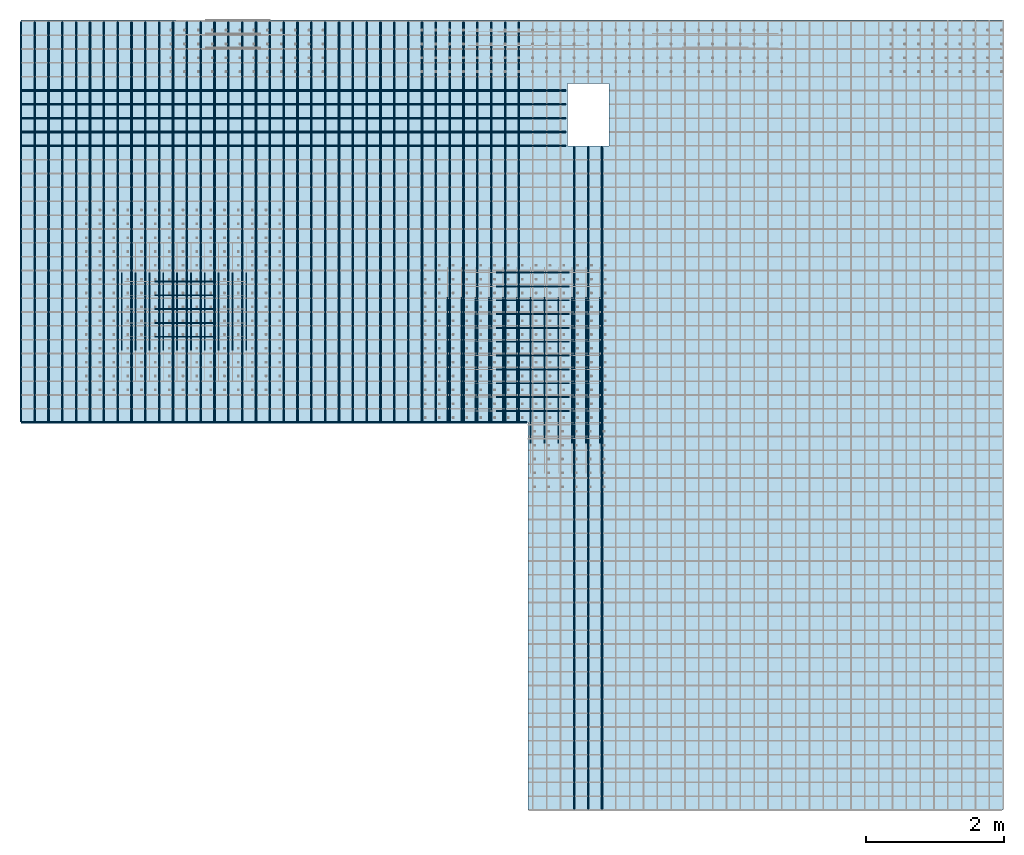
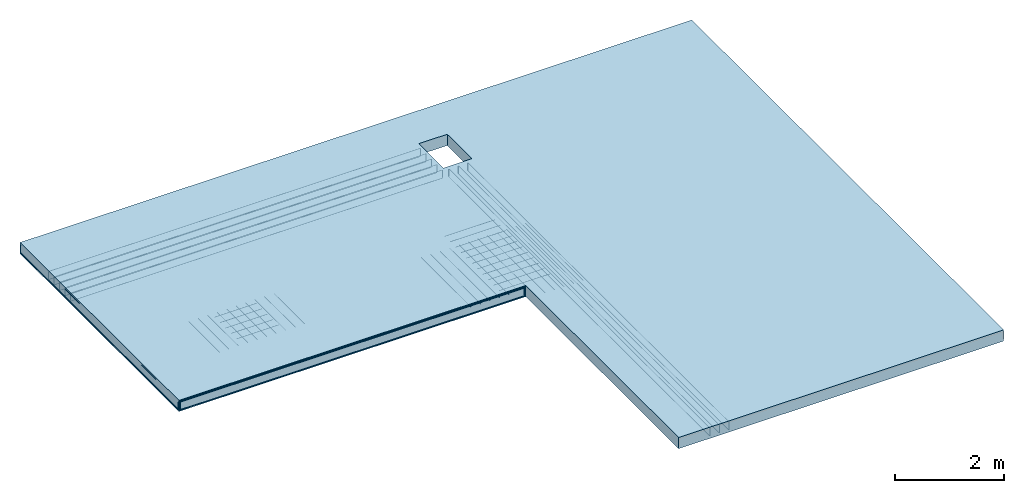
# One storey, part 1 of 4: 9 reinforcing bars, 1 slab, 1 opening.
"""IFC4 building model written with IfcOpenShell, lengths in metres."""

from ifc_helpers import new_model, entity, si_unit, frame, frame_2d, origin_with_axes, place, context, project, spatial, rectangle, extrude, faceted_brep, source, transform, mapped, material, layer, layer_set, layer_usage, type_object, element, save


model = new_model("IFC4")

# Units and contexts
model_context = context("Model", 3, precision=1e-05, world=origin_with_axes())
ifc_project = project(units=[si_unit("LENGTHUNIT", "METRE"), si_unit("AREAUNIT", "SQUARE_METRE"), si_unit("VOLUMEUNIT", "CUBIC_METRE"), si_unit("MASSUNIT", "GRAM", prefix="KILO"), si_unit("TIMEUNIT", "SECOND"), si_unit("PLANEANGLEUNIT", "RADIAN"), si_unit("SOLIDANGLEUNIT", "STERADIAN"), si_unit("THERMODYNAMICTEMPERATUREUNIT", "DEGREE_CELSIUS")], contexts=[model_context])

# Site, building, storey
placement_1 = place(None, origin_with_axes())
site = spatial("IfcSite", under=ifc_project, at=placement_1, Name="Italia", CompositionType="ELEMENT")
building = spatial("IfcBuilding", under=site, at=placement_1, Name="Abitazione", CompositionType="ELEMENT")
storey_placement = place(None, frame((0.0, 0.0, 6.730000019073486), z_axis=(0.0, 0.0, 1.0), x_axis=(1.0, 0.0, 0.0)))
storey = spatial("IfcBuildingStorey", under=building, at=storey_placement, Name="Storey 2", CompositionType="ELEMENT", Elevation=6.730000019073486)

# Slab, opening
ifc_material = material(Name="Calcestruzzo classe C25/30", Category="Calcestruzzo classe C25/30")
ifc_layer = layer(ifc_material, 0.25)
ifc_layer_set = layer_set([ifc_layer])
ifc_layer_usage = layer_usage(ifc_layer_set, "AXIS3", "POSITIVE", -0.25)
slab_type = type_object("IfcSlabType", Name="4 Soletta (C) 25", PredefinedType="BASESLAB")
placement_2 = place(placement_1, origin_with_axes())
slab_placement = place(placement_2, origin_with_axes())
slab = element("IfcSlab", 1, at=slab_placement, inside=storey, type_object=slab_type, material=ifc_layer_usage, context=model_context, shape_type="Brep", body=[
    faceted_brep([(0.8, 11.42, 6.73), (0.8, 11.42, 6.48), (15.0, 11.42, 6.48), (15.0, 11.42, 6.73), (15.0, 11.42, 6.73), (15.0, 11.42, 6.48), (15.0, 0.0, 6.48), (15.0, 0.0, 6.73), (15.0, 0.0, 6.73), (15.0, 0.0, 6.48), (8.13, 0.0, 6.48), (8.13, 0.0, 6.73), (8.13, 0.0, 6.73), (8.13, 0.0, 6.48), (8.13, 5.6, 6.48), (8.13, 5.6, 6.73), (8.13, 5.6, 6.73), (8.13, 5.6, 6.48), (0.8, 5.6, 6.48), (0.8, 5.6, 6.73), (0.8, 5.6, 6.73), (0.8, 5.6, 6.48), (0.8, 11.42, 6.48), (0.8, 11.42, 6.73), (0.8, 11.42, 6.48), (15.0, 11.42, 6.48), (15.0, 0.0, 6.48), (8.13, 0.0, 6.48), (8.13, 5.6, 6.48), (0.8, 5.6, 6.48), (0.8, 11.42, 6.73), (15.0, 11.42, 6.73), (15.0, 0.0, 6.73), (8.13, 0.0, 6.73), (8.13, 5.6, 6.73), (0.8, 5.6, 6.73)], [[[0, 1, 2, 3]], [[4, 5, 6, 7]], [[8, 9, 10, 11]], [[12, 13, 14, 15]], [[16, 17, 18, 19]], [[20, 21, 22, 23]], [[24, 25, 26, 27, 28, 29]], [[30, 31, 32, 33, 34, 35]]]),
])
placement_3 = place(None, frame((0.800000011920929, 11.420000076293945, 6.730000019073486), z_axis=(0.0, -1.0, 0.0), x_axis=(1.0, 0.0, 0.0)))
opening_placement = place(placement_3, frame((7.899999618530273, -0.25, 0.920000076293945), z_axis=(0.0, 0.0, 1.0), x_axis=(0.0, 1.0, 0.0)))
element("IfcOpeningElement", 2, at=opening_placement, cuts=slab, Name="Opening 1", ObjectType="Opening", context=model_context, shape_type="SweptSolid", body=[
    extrude(rectangle(XDim=0.9, YDim=0.6, at=frame_2d((0.45, 0.3), x_axis=(1.0, 0.0))), frame((0.0, 0.0, 0.0), z_axis=(1.0, 0.0, 0.0), x_axis=(0.0, 0.0, 1.0)), (0.0, 0.0, 1.0), 0.25),
])

# Reinforcing bars
shared_shape_1 = source(origin_with_axes(), model_context, "Body", "AdvancedSweptSolid", [
    entity("IfcSweptDiskSolid", entity("IfcIndexedPolyCurve", entity("IfcCartesianPointList3D", [[0.812, 5.594, 6.534], [0.812, 5.594, 6.69], [0.812761, 5.594, 6.69383], [0.814929, 5.594, 6.69707], [0.818173, 5.594, 6.69924], [0.822, 5.594, 6.7], [8.096, 5.594, 6.7], [8.09983, 5.594, 6.69924], [8.10307, 5.594, 6.69707], [8.10524, 5.594, 6.69383], [8.106, 5.594, 6.69], [8.106, 5.594, 6.534]]), [entity("IfcLineIndex", [1, 2]), entity("IfcLineIndex", [2, 3]), entity("IfcLineIndex", [3, 4]), entity("IfcLineIndex", [4, 5]), entity("IfcLineIndex", [5, 6]), entity("IfcLineIndex", [6, 7]), entity("IfcLineIndex", [7, 8]), entity("IfcLineIndex", [8, 9]), entity("IfcLineIndex", [9, 10]), entity("IfcLineIndex", [10, 11]), entity("IfcLineIndex", [11, 12])], False), 0.006),
])
reinforcing_bar_1_placement = place(placement_2, origin_with_axes())
element("IfcReinforcingBar", 3, at=reinforcing_bar_1_placement, inside=storey, BarLength=7.61721, CrossSectionArea=0.0001131, NominalDiameter=0.012, context=model_context, shape_type="MappedRepresentation", body=[
    mapped(shared_shape_1, transform((0.0, 11.2, 13.21), x_axis=(1.0, 0.0, 0.0), y_axis=(0.0, -1.0, 0.0), z_axis=(0.0, 0.0, -1.0), scale=1.0)),
    mapped(shared_shape_1, transform((0.0, 0.0, 0.0), x_axis=(1.0, 0.0, 0.0), y_axis=(0.0, 1.0, 0.0), z_axis=(0.0, 0.0, 1.0), scale=1.0)),
])
shared_shape_2 = source(origin_with_axes(), model_context, "Body", "AdvancedSweptSolid", [
    entity("IfcSweptDiskSolid", entity("IfcIndexedPolyCurve", entity("IfcCartesianPointList3D", [[0.812, 9.594, 6.534], [0.812, 9.594, 6.69], [0.812761, 9.594, 6.69383], [0.814929, 9.594, 6.69707], [0.818173, 9.594, 6.69924], [0.822, 9.594, 6.7], [8.666, 9.594, 6.7], [8.66983, 9.594, 6.69924], [8.67307, 9.594, 6.69707], [8.67524, 9.594, 6.69383], [8.676, 9.594, 6.69], [8.676, 9.594, 6.534]]), [entity("IfcLineIndex", [1, 2]), entity("IfcLineIndex", [2, 3]), entity("IfcLineIndex", [3, 4]), entity("IfcLineIndex", [4, 5]), entity("IfcLineIndex", [5, 6]), entity("IfcLineIndex", [6, 7]), entity("IfcLineIndex", [7, 8]), entity("IfcLineIndex", [8, 9]), entity("IfcLineIndex", [9, 10]), entity("IfcLineIndex", [10, 11]), entity("IfcLineIndex", [11, 12])], False), 0.006),
])
reinforcing_bar_2_placement = place(placement_2, origin_with_axes())
element("IfcReinforcingBar", 4, at=reinforcing_bar_2_placement, inside=storey, BarLength=8.18721, CrossSectionArea=0.0001131, NominalDiameter=0.012, context=model_context, shape_type="MappedRepresentation", body=[
    mapped(shared_shape_2, transform((0.0, 19.4, 13.21), x_axis=(1.0, 0.0, 0.0), y_axis=(0.0, -1.0, 0.0), z_axis=(0.0, 0.0, -1.0), scale=1.0)),
    mapped(shared_shape_2, transform((0.0, 19.2, 13.21), x_axis=(1.0, 0.0, 0.0), y_axis=(0.0, -1.0, 0.0), z_axis=(0.0, 0.0, -1.0), scale=1.0)),
    mapped(shared_shape_2, transform((0.0, 19.8, 13.21), x_axis=(1.0, 0.0, 0.0), y_axis=(0.0, -1.0, 0.0), z_axis=(0.0, 0.0, -1.0), scale=1.0)),
    mapped(shared_shape_2, transform((0.0, 19.6, 13.21), x_axis=(1.0, 0.0, 0.0), y_axis=(0.0, -1.0, 0.0), z_axis=(0.0, 0.0, -1.0), scale=1.0)),
    mapped(shared_shape_2, transform((0.0, 0.0, 0.0), x_axis=(1.0, 0.0, 0.0), y_axis=(0.0, 1.0, 0.0), z_axis=(0.0, 0.0, 1.0), scale=1.0)),
    mapped(shared_shape_2, transform((0.0, 20.0, 13.21), x_axis=(1.0, 0.0, 0.0), y_axis=(0.0, -1.0, 0.0), z_axis=(0.0, 0.0, -1.0), scale=1.0)),
    mapped(shared_shape_2, transform((0.0, 0.4, 0.0), x_axis=(1.0, 0.0, 0.0), y_axis=(0.0, 1.0, 0.0), z_axis=(0.0, 0.0, 1.0), scale=1.0)),
    mapped(shared_shape_2, transform((0.0, 0.2, 0.0), x_axis=(1.0, 0.0, 0.0), y_axis=(0.0, 1.0, 0.0), z_axis=(0.0, 0.0, 1.0), scale=1.0)),
    mapped(shared_shape_2, transform((0.0, 0.799999, 0.0), x_axis=(1.0, 0.0, 0.0), y_axis=(0.0, 1.0, 0.0), z_axis=(0.0, 0.0, 1.0), scale=1.0)),
    mapped(shared_shape_2, transform((0.0, 0.599999, 0.0), x_axis=(1.0, 0.0, 0.0), y_axis=(0.0, 1.0, 0.0), z_axis=(0.0, 0.0, 1.0), scale=1.0)),
])
shared_shape_3 = source(origin_with_axes(), model_context, "Body", "AdvancedSweptSolid", [
    entity("IfcSweptDiskSolid", entity("IfcIndexedPolyCurve", entity("IfcCartesianPointList3D", [[0.806, 5.612, 6.522], [0.806, 5.612, 6.678], [0.806, 5.61276, 6.68183], [0.806, 5.61493, 6.68507], [0.806, 5.61817, 6.68724], [0.806, 5.622, 6.688], [0.806, 11.386, 6.688], [0.806, 11.3898, 6.68724], [0.806, 11.3931, 6.68507], [0.806, 11.3952, 6.68183], [0.806, 11.396, 6.678], [0.806, 11.396, 6.522]]), [entity("IfcLineIndex", [1, 2]), entity("IfcLineIndex", [2, 3]), entity("IfcLineIndex", [3, 4]), entity("IfcLineIndex", [4, 5]), entity("IfcLineIndex", [5, 6]), entity("IfcLineIndex", [6, 7]), entity("IfcLineIndex", [7, 8]), entity("IfcLineIndex", [8, 9]), entity("IfcLineIndex", [9, 10]), entity("IfcLineIndex", [10, 11]), entity("IfcLineIndex", [11, 12])], False), 0.006),
])
reinforcing_bar_3_placement = place(placement_2, origin_with_axes())
element("IfcReinforcingBar", 5, at=reinforcing_bar_3_placement, inside=storey, BarLength=6.10721, CrossSectionArea=0.0001131, NominalDiameter=0.012, context=model_context, shape_type="MappedRepresentation", body=[
    mapped(shared_shape_3, transform((7.2, 0.0, 0.0), x_axis=(1.0, 0.0, 0.0), y_axis=(0.0, 1.0, 0.0), z_axis=(0.0, 0.0, 1.0), scale=1.0)),
    mapped(shared_shape_3, transform((7.0, 0.0, 0.0), x_axis=(1.0, 0.0, 0.0), y_axis=(0.0, 1.0, 0.0), z_axis=(0.0, 0.0, 1.0), scale=1.0)),
    mapped(shared_shape_3, transform((5.0, 0.0, 0.0), x_axis=(1.0, 0.0, 0.0), y_axis=(0.0, 1.0, 0.0), z_axis=(0.0, 0.0, 1.0), scale=1.0)),
    mapped(shared_shape_3, transform((4.8, 0.0, 0.0), x_axis=(1.0, 0.0, 0.0), y_axis=(0.0, 1.0, 0.0), z_axis=(0.0, 0.0, 1.0), scale=1.0)),
    mapped(shared_shape_3, transform((4.6, 0.0, 0.0), x_axis=(1.0, 0.0, 0.0), y_axis=(0.0, 1.0, 0.0), z_axis=(0.0, 0.0, 1.0), scale=1.0)),
    mapped(shared_shape_3, transform((4.4, 0.0, 0.0), x_axis=(1.0, 0.0, 0.0), y_axis=(0.0, 1.0, 0.0), z_axis=(0.0, 0.0, 1.0), scale=1.0)),
    mapped(shared_shape_3, transform((4.2, 0.0, 0.0), x_axis=(1.0, 0.0, 0.0), y_axis=(0.0, 1.0, 0.0), z_axis=(0.0, 0.0, 1.0), scale=1.0)),
    mapped(shared_shape_3, transform((4.0, 0.0, 0.0), x_axis=(1.0, 0.0, 0.0), y_axis=(0.0, 1.0, 0.0), z_axis=(0.0, 0.0, 1.0), scale=1.0)),
    mapped(shared_shape_3, transform((3.8, 0.0, 0.0), x_axis=(1.0, 0.0, 0.0), y_axis=(0.0, 1.0, 0.0), z_axis=(0.0, 0.0, 1.0), scale=1.0)),
    mapped(shared_shape_3, transform((5.4, 0.0, 0.0), x_axis=(1.0, 0.0, 0.0), y_axis=(0.0, 1.0, 0.0), z_axis=(0.0, 0.0, 1.0), scale=1.0)),
    mapped(shared_shape_3, transform((5.2, 0.0, 0.0), x_axis=(1.0, 0.0, 0.0), y_axis=(0.0, 1.0, 0.0), z_axis=(0.0, 0.0, 1.0), scale=1.0)),
    mapped(shared_shape_3, transform((6.8, 0.0, 0.0), x_axis=(1.0, 0.0, 0.0), y_axis=(0.0, 1.0, 0.0), z_axis=(0.0, 0.0, 1.0), scale=1.0)),
    mapped(shared_shape_3, transform((6.6, 0.0, 0.0), x_axis=(1.0, 0.0, 0.0), y_axis=(0.0, 1.0, 0.0), z_axis=(0.0, 0.0, 1.0), scale=1.0)),
    mapped(shared_shape_3, transform((6.4, 0.0, 0.0), x_axis=(1.0, 0.0, 0.0), y_axis=(0.0, 1.0, 0.0), z_axis=(0.0, 0.0, 1.0), scale=1.0)),
    mapped(shared_shape_3, transform((6.2, 0.0, 0.0), x_axis=(1.0, 0.0, 0.0), y_axis=(0.0, 1.0, 0.0), z_axis=(0.0, 0.0, 1.0), scale=1.0)),
    mapped(shared_shape_3, transform((6.0, 0.0, 0.0), x_axis=(1.0, 0.0, 0.0), y_axis=(0.0, 1.0, 0.0), z_axis=(0.0, 0.0, 1.0), scale=1.0)),
    mapped(shared_shape_3, transform((5.8, 0.0, 0.0), x_axis=(1.0, 0.0, 0.0), y_axis=(0.0, 1.0, 0.0), z_axis=(0.0, 0.0, 1.0), scale=1.0)),
    mapped(shared_shape_3, transform((5.6, 0.0, 0.0), x_axis=(1.0, 0.0, 0.0), y_axis=(0.0, 1.0, 0.0), z_axis=(0.0, 0.0, 1.0), scale=1.0)),
    mapped(shared_shape_3, transform((3.6, 0.0, 0.0), x_axis=(1.0, 0.0, 0.0), y_axis=(0.0, 1.0, 0.0), z_axis=(0.0, 0.0, 1.0), scale=1.0)),
    mapped(shared_shape_3, transform((3.4, 0.0, 0.0), x_axis=(1.0, 0.0, 0.0), y_axis=(0.0, 1.0, 0.0), z_axis=(0.0, 0.0, 1.0), scale=1.0)),
    mapped(shared_shape_3, transform((1.4, 0.0, 0.0), x_axis=(1.0, 0.0, 0.0), y_axis=(0.0, 1.0, 0.0), z_axis=(0.0, 0.0, 1.0), scale=1.0)),
    mapped(shared_shape_3, transform((1.2, 0.0, 0.0), x_axis=(1.0, 0.0, 0.0), y_axis=(0.0, 1.0, 0.0), z_axis=(0.0, 0.0, 1.0), scale=1.0)),
    mapped(shared_shape_3, transform((1.0, 0.0, 0.0), x_axis=(1.0, 0.0, 0.0), y_axis=(0.0, 1.0, 0.0), z_axis=(0.0, 0.0, 1.0), scale=1.0)),
    mapped(shared_shape_3, transform((0.8, 0.0, 0.0), x_axis=(1.0, 0.0, 0.0), y_axis=(0.0, 1.0, 0.0), z_axis=(0.0, 0.0, 1.0), scale=1.0)),
    mapped(shared_shape_3, transform((0.6, 0.0, 0.0), x_axis=(1.0, 0.0, 0.0), y_axis=(0.0, 1.0, 0.0), z_axis=(0.0, 0.0, 1.0), scale=1.0)),
    mapped(shared_shape_3, transform((0.4, 0.0, 0.0), x_axis=(1.0, 0.0, 0.0), y_axis=(0.0, 1.0, 0.0), z_axis=(0.0, 0.0, 1.0), scale=1.0)),
    mapped(shared_shape_3, transform((0.2, 0.0, 0.0), x_axis=(1.0, 0.0, 0.0), y_axis=(0.0, 1.0, 0.0), z_axis=(0.0, 0.0, 1.0), scale=1.0)),
    mapped(shared_shape_3, transform((1.8, 0.0, 0.0), x_axis=(1.0, 0.0, 0.0), y_axis=(0.0, 1.0, 0.0), z_axis=(0.0, 0.0, 1.0), scale=1.0)),
    mapped(shared_shape_3, transform((1.6, 0.0, 0.0), x_axis=(1.0, 0.0, 0.0), y_axis=(0.0, 1.0, 0.0), z_axis=(0.0, 0.0, 1.0), scale=1.0)),
    mapped(shared_shape_3, transform((3.2, 0.0, 0.0), x_axis=(1.0, 0.0, 0.0), y_axis=(0.0, 1.0, 0.0), z_axis=(0.0, 0.0, 1.0), scale=1.0)),
    mapped(shared_shape_3, transform((3.0, 0.0, 0.0), x_axis=(1.0, 0.0, 0.0), y_axis=(0.0, 1.0, 0.0), z_axis=(0.0, 0.0, 1.0), scale=1.0)),
    mapped(shared_shape_3, transform((2.8, 0.0, 0.0), x_axis=(1.0, 0.0, 0.0), y_axis=(0.0, 1.0, 0.0), z_axis=(0.0, 0.0, 1.0), scale=1.0)),
    mapped(shared_shape_3, transform((2.6, 0.0, 0.0), x_axis=(1.0, 0.0, 0.0), y_axis=(0.0, 1.0, 0.0), z_axis=(0.0, 0.0, 1.0), scale=1.0)),
    mapped(shared_shape_3, transform((2.4, 0.0, 0.0), x_axis=(1.0, 0.0, 0.0), y_axis=(0.0, 1.0, 0.0), z_axis=(0.0, 0.0, 1.0), scale=1.0)),
    mapped(shared_shape_3, transform((2.2, 0.0, 0.0), x_axis=(1.0, 0.0, 0.0), y_axis=(0.0, 1.0, 0.0), z_axis=(0.0, 0.0, 1.0), scale=1.0)),
    mapped(shared_shape_3, transform((2.0, 0.0, 0.0), x_axis=(1.0, 0.0, 0.0), y_axis=(0.0, 1.0, 0.0), z_axis=(0.0, 0.0, 1.0), scale=1.0)),
    mapped(shared_shape_3, transform((0.0, 0.0, 0.0), x_axis=(1.0, 0.0, 0.0), y_axis=(0.0, 1.0, 0.0), z_axis=(0.0, 0.0, 1.0), scale=1.0)),
    mapped(shared_shape_3, transform((8.8, 0.0, 13.21), x_axis=(-1.0, 0.0, 0.0), y_axis=(0.0, 1.0, 0.0), z_axis=(0.0, 0.0, -1.0), scale=1.0)),
    mapped(shared_shape_3, transform((6.8, 0.0, 13.21), x_axis=(-1.0, 0.0, 0.0), y_axis=(0.0, 1.0, 0.0), z_axis=(0.0, 0.0, -1.0), scale=1.0)),
    mapped(shared_shape_3, transform((6.6, 0.0, 13.21), x_axis=(-1.0, 0.0, 0.0), y_axis=(0.0, 1.0, 0.0), z_axis=(0.0, 0.0, -1.0), scale=1.0)),
    mapped(shared_shape_3, transform((6.4, 0.0, 13.21), x_axis=(-1.0, 0.0, 0.0), y_axis=(0.0, 1.0, 0.0), z_axis=(0.0, 0.0, -1.0), scale=1.0)),
    mapped(shared_shape_3, transform((6.2, 0.0, 13.21), x_axis=(-1.0, 0.0, 0.0), y_axis=(0.0, 1.0, 0.0), z_axis=(0.0, 0.0, -1.0), scale=1.0)),
    mapped(shared_shape_3, transform((6.0, 0.0, 13.21), x_axis=(-1.0, 0.0, 0.0), y_axis=(0.0, 1.0, 0.0), z_axis=(0.0, 0.0, -1.0), scale=1.0)),
    mapped(shared_shape_3, transform((5.8, 0.0, 13.21), x_axis=(-1.0, 0.0, 0.0), y_axis=(0.0, 1.0, 0.0), z_axis=(0.0, 0.0, -1.0), scale=1.0)),
    mapped(shared_shape_3, transform((5.6, 0.0, 13.21), x_axis=(-1.0, 0.0, 0.0), y_axis=(0.0, 1.0, 0.0), z_axis=(0.0, 0.0, -1.0), scale=1.0)),
    mapped(shared_shape_3, transform((7.2, 0.0, 13.21), x_axis=(-1.0, 0.0, 0.0), y_axis=(0.0, 1.0, 0.0), z_axis=(0.0, 0.0, -1.0), scale=1.0)),
    mapped(shared_shape_3, transform((7.0, 0.0, 13.21), x_axis=(-1.0, 0.0, 0.0), y_axis=(0.0, 1.0, 0.0), z_axis=(0.0, 0.0, -1.0), scale=1.0)),
    mapped(shared_shape_3, transform((8.6, 0.0, 13.21), x_axis=(-1.0, 0.0, 0.0), y_axis=(0.0, 1.0, 0.0), z_axis=(0.0, 0.0, -1.0), scale=1.0)),
    mapped(shared_shape_3, transform((8.4, 0.0, 13.21), x_axis=(-1.0, 0.0, 0.0), y_axis=(0.0, 1.0, 0.0), z_axis=(0.0, 0.0, -1.0), scale=1.0)),
    mapped(shared_shape_3, transform((8.2, 0.0, 13.21), x_axis=(-1.0, 0.0, 0.0), y_axis=(0.0, 1.0, 0.0), z_axis=(0.0, 0.0, -1.0), scale=1.0)),
    mapped(shared_shape_3, transform((8.0, 0.0, 13.21), x_axis=(-1.0, 0.0, 0.0), y_axis=(0.0, 1.0, 0.0), z_axis=(0.0, 0.0, -1.0), scale=1.0)),
    mapped(shared_shape_3, transform((7.8, 0.0, 13.21), x_axis=(-1.0, 0.0, 0.0), y_axis=(0.0, 1.0, 0.0), z_axis=(0.0, 0.0, -1.0), scale=1.0)),
    mapped(shared_shape_3, transform((7.6, 0.0, 13.21), x_axis=(-1.0, 0.0, 0.0), y_axis=(0.0, 1.0, 0.0), z_axis=(0.0, 0.0, -1.0), scale=1.0)),
    mapped(shared_shape_3, transform((7.4, 0.0, 13.21), x_axis=(-1.0, 0.0, 0.0), y_axis=(0.0, 1.0, 0.0), z_axis=(0.0, 0.0, -1.0), scale=1.0)),
    mapped(shared_shape_3, transform((5.4, 0.0, 13.21), x_axis=(-1.0, 0.0, 0.0), y_axis=(0.0, 1.0, 0.0), z_axis=(0.0, 0.0, -1.0), scale=1.0)),
    mapped(shared_shape_3, transform((5.2, 0.0, 13.21), x_axis=(-1.0, 0.0, 0.0), y_axis=(0.0, 1.0, 0.0), z_axis=(0.0, 0.0, -1.0), scale=1.0)),
    mapped(shared_shape_3, transform((3.2, 0.0, 13.21), x_axis=(-1.0, 0.0, 0.0), y_axis=(0.0, 1.0, 0.0), z_axis=(0.0, 0.0, -1.0), scale=1.0)),
    mapped(shared_shape_3, transform((3.0, 0.0, 13.21), x_axis=(-1.0, 0.0, 0.0), y_axis=(0.0, 1.0, 0.0), z_axis=(0.0, 0.0, -1.0), scale=1.0)),
    mapped(shared_shape_3, transform((2.8, 0.0, 13.21), x_axis=(-1.0, 0.0, 0.0), y_axis=(0.0, 1.0, 0.0), z_axis=(0.0, 0.0, -1.0), scale=1.0)),
    mapped(shared_shape_3, transform((2.6, 0.0, 13.21), x_axis=(-1.0, 0.0, 0.0), y_axis=(0.0, 1.0, 0.0), z_axis=(0.0, 0.0, -1.0), scale=1.0)),
    mapped(shared_shape_3, transform((2.4, 0.0, 13.21), x_axis=(-1.0, 0.0, 0.0), y_axis=(0.0, 1.0, 0.0), z_axis=(0.0, 0.0, -1.0), scale=1.0)),
    mapped(shared_shape_3, transform((2.2, 0.0, 13.21), x_axis=(-1.0, 0.0, 0.0), y_axis=(0.0, 1.0, 0.0), z_axis=(0.0, 0.0, -1.0), scale=1.0)),
    mapped(shared_shape_3, transform((2.0, 0.0, 13.21), x_axis=(-1.0, 0.0, 0.0), y_axis=(0.0, 1.0, 0.0), z_axis=(0.0, 0.0, -1.0), scale=1.0)),
    mapped(shared_shape_3, transform((3.6, 0.0, 13.21), x_axis=(-1.0, 0.0, 0.0), y_axis=(0.0, 1.0, 0.0), z_axis=(0.0, 0.0, -1.0), scale=1.0)),
    mapped(shared_shape_3, transform((3.4, 0.0, 13.21), x_axis=(-1.0, 0.0, 0.0), y_axis=(0.0, 1.0, 0.0), z_axis=(0.0, 0.0, -1.0), scale=1.0)),
    mapped(shared_shape_3, transform((5.0, 0.0, 13.21), x_axis=(-1.0, 0.0, 0.0), y_axis=(0.0, 1.0, 0.0), z_axis=(0.0, 0.0, -1.0), scale=1.0)),
    mapped(shared_shape_3, transform((4.8, 0.0, 13.21), x_axis=(-1.0, 0.0, 0.0), y_axis=(0.0, 1.0, 0.0), z_axis=(0.0, 0.0, -1.0), scale=1.0)),
    mapped(shared_shape_3, transform((4.6, 0.0, 13.21), x_axis=(-1.0, 0.0, 0.0), y_axis=(0.0, 1.0, 0.0), z_axis=(0.0, 0.0, -1.0), scale=1.0)),
    mapped(shared_shape_3, transform((4.4, 0.0, 13.21), x_axis=(-1.0, 0.0, 0.0), y_axis=(0.0, 1.0, 0.0), z_axis=(0.0, 0.0, -1.0), scale=1.0)),
    mapped(shared_shape_3, transform((4.2, 0.0, 13.21), x_axis=(-1.0, 0.0, 0.0), y_axis=(0.0, 1.0, 0.0), z_axis=(0.0, 0.0, -1.0), scale=1.0)),
    mapped(shared_shape_3, transform((4.0, 0.0, 13.21), x_axis=(-1.0, 0.0, 0.0), y_axis=(0.0, 1.0, 0.0), z_axis=(0.0, 0.0, -1.0), scale=1.0)),
    mapped(shared_shape_3, transform((3.8, 0.0, 13.21), x_axis=(-1.0, 0.0, 0.0), y_axis=(0.0, 1.0, 0.0), z_axis=(0.0, 0.0, -1.0), scale=1.0)),
    mapped(shared_shape_3, transform((1.8, 0.0, 13.21), x_axis=(-1.0, 0.0, 0.0), y_axis=(0.0, 1.0, 0.0), z_axis=(0.0, 0.0, -1.0), scale=1.0)),
    mapped(shared_shape_3, transform((1.6, 0.0, 13.21), x_axis=(-1.0, 0.0, 0.0), y_axis=(0.0, 1.0, 0.0), z_axis=(0.0, 0.0, -1.0), scale=1.0)),
])
shared_shape_4 = source(origin_with_axes(), model_context, "Body", "AdvancedSweptSolid", [
    entity("IfcSweptDiskSolid", entity("IfcIndexedPolyCurve", entity("IfcCartesianPointList3D", [[8.80599, 0.012, 6.522], [8.80599, 0.012, 6.678], [8.80599, 0.0127612, 6.68183], [8.80599, 0.0149289, 6.68507], [8.80599, 0.0181732, 6.68724], [8.80599, 0.022, 6.688], [8.80599, 9.566, 6.688], [8.80599, 9.56983, 6.68724], [8.80599, 9.57307, 6.68507], [8.80599, 9.57524, 6.68183], [8.80599, 9.576, 6.678], [8.80599, 9.576, 6.522]]), [entity("IfcLineIndex", [1, 2]), entity("IfcLineIndex", [2, 3]), entity("IfcLineIndex", [3, 4]), entity("IfcLineIndex", [4, 5]), entity("IfcLineIndex", [5, 6]), entity("IfcLineIndex", [6, 7]), entity("IfcLineIndex", [7, 8]), entity("IfcLineIndex", [8, 9]), entity("IfcLineIndex", [9, 10]), entity("IfcLineIndex", [10, 11]), entity("IfcLineIndex", [11, 12])], False), 0.006),
])
reinforcing_bar_4_placement = place(placement_2, origin_with_axes())
element("IfcReinforcingBar", 6, at=reinforcing_bar_4_placement, inside=storey, BarLength=9.88721, CrossSectionArea=0.0001131, NominalDiameter=0.012, context=model_context, shape_type="MappedRepresentation", body=[
    mapped(shared_shape_4, transform((0.4, 0.0, 0.0), x_axis=(1.0, 0.0, 0.0), y_axis=(0.0, 1.0, 0.0), z_axis=(0.0, 0.0, 1.0), scale=1.0)),
    mapped(shared_shape_4, transform((0.2, 0.0, 0.0), x_axis=(1.0, 0.0, 0.0), y_axis=(0.0, 1.0, 0.0), z_axis=(0.0, 0.0, 1.0), scale=1.0)),
    mapped(shared_shape_4, transform((0.0, 0.0, 0.0), x_axis=(1.0, 0.0, 0.0), y_axis=(0.0, 1.0, 0.0), z_axis=(0.0, 0.0, 1.0), scale=1.0)),
    mapped(shared_shape_4, transform((18.0, 0.0, 13.21), x_axis=(-1.0, 0.0, 0.0), y_axis=(0.0, 1.0, 0.0), z_axis=(0.0, 0.0, -1.0), scale=1.0)),
    mapped(shared_shape_4, transform((17.8, 0.0, 13.21), x_axis=(-1.0, 0.0, 0.0), y_axis=(0.0, 1.0, 0.0), z_axis=(0.0, 0.0, -1.0), scale=1.0)),
    mapped(shared_shape_4, transform((17.6, 0.0, 13.21), x_axis=(-1.0, 0.0, 0.0), y_axis=(0.0, 1.0, 0.0), z_axis=(0.0, 0.0, -1.0), scale=1.0)),
])
shared_shape_5 = source(origin_with_axes(), model_context, "Body", "AdvancedSweptSolid", [
    entity("IfcSweptDiskSolid", entity("IfcIndexedPolyCurve", entity("IfcCartesianPointList3D", [[7.66749, 5.76872, 6.676], [8.7334, 5.76872, 6.676]]), [entity("IfcLineIndex", [1, 2])], False), 0.006),
])
reinforcing_bar_5_placement = place(placement_2, origin_with_axes())
element("IfcReinforcingBar", 7, at=reinforcing_bar_5_placement, inside=storey, BarLength=1.06591, CrossSectionArea=0.0001131, NominalDiameter=0.012, context=model_context, shape_type="MappedRepresentation", body=[
    mapped(shared_shape_5, transform((0.0, 2.0, 0.0), x_axis=(1.0, 0.0, 0.0), y_axis=(0.0, 1.0, 0.0), z_axis=(0.0, 0.0, 1.0), scale=1.0)),
    mapped(shared_shape_5, transform((0.0, 1.2, 0.0), x_axis=(1.0, 0.0, 0.0), y_axis=(0.0, 1.0, 0.0), z_axis=(0.0, 0.0, 1.0), scale=1.0)),
    mapped(shared_shape_5, transform((0.0, 1.4, 0.0), x_axis=(1.0, 0.0, 0.0), y_axis=(0.0, 1.0, 0.0), z_axis=(0.0, 0.0, 1.0), scale=1.0)),
    mapped(shared_shape_5, transform((0.0, 1.6, 0.0), x_axis=(1.0, 0.0, 0.0), y_axis=(0.0, 1.0, 0.0), z_axis=(0.0, 0.0, 1.0), scale=1.0)),
    mapped(shared_shape_5, transform((0.0, 1.8, 0.0), x_axis=(1.0, 0.0, 0.0), y_axis=(0.0, 1.0, 0.0), z_axis=(0.0, 0.0, 1.0), scale=1.0)),
    mapped(shared_shape_5, transform((0.0, 0.999999, 0.0), x_axis=(1.0, 0.0, 0.0), y_axis=(0.0, 1.0, 0.0), z_axis=(0.0, 0.0, 1.0), scale=1.0)),
    mapped(shared_shape_5, transform((0.0, 0.2, 0.0), x_axis=(1.0, 0.0, 0.0), y_axis=(0.0, 1.0, 0.0), z_axis=(0.0, 0.0, 1.0), scale=1.0)),
    mapped(shared_shape_5, transform((0.0, 0.4, 0.0), x_axis=(1.0, 0.0, 0.0), y_axis=(0.0, 1.0, 0.0), z_axis=(0.0, 0.0, 1.0), scale=1.0)),
    mapped(shared_shape_5, transform((0.0, 0.599999, 0.0), x_axis=(1.0, 0.0, 0.0), y_axis=(0.0, 1.0, 0.0), z_axis=(0.0, 0.0, 1.0), scale=1.0)),
    mapped(shared_shape_5, transform((0.0, 0.799999, 0.0), x_axis=(1.0, 0.0, 0.0), y_axis=(0.0, 1.0, 0.0), z_axis=(0.0, 0.0, 1.0), scale=1.0)),
    mapped(shared_shape_5, transform((0.0, 0.0, 0.0), x_axis=(1.0, 0.0, 0.0), y_axis=(0.0, 1.0, 0.0), z_axis=(0.0, 0.0, 1.0), scale=1.0)),
])
shared_shape_6 = source(origin_with_axes(), model_context, "Body", "AdvancedSweptSolid", [
    entity("IfcSweptDiskSolid", entity("IfcIndexedPolyCurve", entity("IfcCartesianPointList3D", [[2.73246, 6.84009, 6.676], [3.61837, 6.84009, 6.676]]), [entity("IfcLineIndex", [1, 2])], False), 0.006),
])
reinforcing_bar_6_placement = place(placement_2, origin_with_axes())
element("IfcReinforcingBar", 8, at=reinforcing_bar_6_placement, inside=storey, BarLength=0.885909, CrossSectionArea=0.0001131, NominalDiameter=0.012, context=model_context, shape_type="MappedRepresentation", body=[
    mapped(shared_shape_6, transform((0.0, 0.0, 0.0), x_axis=(1.0, 0.0, 0.0), y_axis=(0.0, 1.0, 0.0), z_axis=(0.0, 0.0, 1.0), scale=1.0)),
    mapped(shared_shape_6, transform((0.0, 0.199999, 0.0), x_axis=(1.0, 0.0, 0.0), y_axis=(0.0, 1.0, 0.0), z_axis=(0.0, 0.0, 1.0), scale=1.0)),
    mapped(shared_shape_6, transform((0.0, 0.399999, 0.0), x_axis=(1.0, 0.0, 0.0), y_axis=(0.0, 1.0, 0.0), z_axis=(0.0, 0.0, 1.0), scale=1.0)),
    mapped(shared_shape_6, transform((0.0, 0.599999, 0.0), x_axis=(1.0, 0.0, 0.0), y_axis=(0.0, 1.0, 0.0), z_axis=(0.0, 0.0, 1.0), scale=1.0)),
    mapped(shared_shape_6, transform((0.0, 0.799999, 0.0), x_axis=(1.0, 0.0, 0.0), y_axis=(0.0, 1.0, 0.0), z_axis=(0.0, 0.0, 1.0), scale=1.0)),
])
shared_shape_7 = source(origin_with_axes(), model_context, "Body", "AdvancedSweptSolid", [
    entity("IfcSweptDiskSolid", entity("IfcIndexedPolyCurve", entity("IfcCartesianPointList3D", [[2.25968, 6.64288, 6.664], [2.25968, 7.76879, 6.664]]), [entity("IfcLineIndex", [1, 2])], False), 0.006),
])
reinforcing_bar_7_placement = place(placement_2, origin_with_axes())
element("IfcReinforcingBar", 9, at=reinforcing_bar_7_placement, inside=storey, BarLength=1.12591, CrossSectionArea=0.0001131, NominalDiameter=0.012, context=model_context, shape_type="MappedRepresentation", body=[
    mapped(shared_shape_7, transform((1.2, 0.0, 0.0), x_axis=(1.0, 0.0, 0.0), y_axis=(0.0, 1.0, 0.0), z_axis=(0.0, 0.0, 1.0), scale=1.0)),
    mapped(shared_shape_7, transform((1.0, 0.0, 0.0), x_axis=(1.0, 0.0, 0.0), y_axis=(0.0, 1.0, 0.0), z_axis=(0.0, 0.0, 1.0), scale=1.0)),
    mapped(shared_shape_7, transform((1.6, 0.0, 0.0), x_axis=(1.0, 0.0, 0.0), y_axis=(0.0, 1.0, 0.0), z_axis=(0.0, 0.0, 1.0), scale=1.0)),
    mapped(shared_shape_7, transform((1.4, 0.0, 0.0), x_axis=(1.0, 0.0, 0.0), y_axis=(0.0, 1.0, 0.0), z_axis=(0.0, 0.0, 1.0), scale=1.0)),
    mapped(shared_shape_7, transform((0.0, 0.0, 0.0), x_axis=(1.0, 0.0, 0.0), y_axis=(0.0, 1.0, 0.0), z_axis=(0.0, 0.0, 1.0), scale=1.0)),
    mapped(shared_shape_7, transform((1.8, 0.0, 0.0), x_axis=(1.0, 0.0, 0.0), y_axis=(0.0, 1.0, 0.0), z_axis=(0.0, 0.0, 1.0), scale=1.0)),
    mapped(shared_shape_7, transform((0.4, 0.0, 0.0), x_axis=(1.0, 0.0, 0.0), y_axis=(0.0, 1.0, 0.0), z_axis=(0.0, 0.0, 1.0), scale=1.0)),
    mapped(shared_shape_7, transform((0.2, 0.0, 0.0), x_axis=(1.0, 0.0, 0.0), y_axis=(0.0, 1.0, 0.0), z_axis=(0.0, 0.0, 1.0), scale=1.0)),
    mapped(shared_shape_7, transform((0.8, 0.0, 0.0), x_axis=(1.0, 0.0, 0.0), y_axis=(0.0, 1.0, 0.0), z_axis=(0.0, 0.0, 1.0), scale=1.0)),
    mapped(shared_shape_7, transform((0.6, 0.0, 0.0), x_axis=(1.0, 0.0, 0.0), y_axis=(0.0, 1.0, 0.0), z_axis=(0.0, 0.0, 1.0), scale=1.0)),
])
shared_shape_8 = source(origin_with_axes(), model_context, "Body", "AdvancedSweptSolid", [
    entity("IfcSweptDiskSolid", entity("IfcIndexedPolyCurve", entity("IfcCartesianPointList3D", [[6.968, 5.6, 6.664], [6.968, 7.41395, 6.664]]), [entity("IfcLineIndex", [1, 2])], False), 0.006),
])
reinforcing_bar_8_placement = place(placement_2, origin_with_axes())
element("IfcReinforcingBar", 10, at=reinforcing_bar_8_placement, inside=storey, BarLength=1.81395, CrossSectionArea=0.0001131, NominalDiameter=0.012, context=model_context, shape_type="MappedRepresentation", body=[
    mapped(shared_shape_8, transform((0.399999, 0.0, 0.0), x_axis=(1.0, 0.0, 0.0), y_axis=(0.0, 1.0, 0.0), z_axis=(0.0, 0.0, 1.0), scale=1.0)),
    mapped(shared_shape_8, transform((0.199999, 0.0, 0.0), x_axis=(1.0, 0.0, 0.0), y_axis=(0.0, 1.0, 0.0), z_axis=(0.0, 0.0, 1.0), scale=1.0)),
    mapped(shared_shape_8, transform((0.0, 0.0, 0.0), x_axis=(1.0, 0.0, 0.0), y_axis=(0.0, 1.0, 0.0), z_axis=(0.0, 0.0, 1.0), scale=1.0)),
    mapped(shared_shape_8, transform((0.999999, 0.0, 0.0), x_axis=(1.0, 0.0, 0.0), y_axis=(0.0, 1.0, 0.0), z_axis=(0.0, 0.0, 1.0), scale=1.0)),
    mapped(shared_shape_8, transform((0.799999, 0.0, 0.0), x_axis=(1.0, 0.0, 0.0), y_axis=(0.0, 1.0, 0.0), z_axis=(0.0, 0.0, 1.0), scale=1.0)),
    mapped(shared_shape_8, transform((0.599999, 0.0, 0.0), x_axis=(1.0, 0.0, 0.0), y_axis=(0.0, 1.0, 0.0), z_axis=(0.0, 0.0, 1.0), scale=1.0)),
])
shared_shape_9 = source(origin_with_axes(), model_context, "Body", "AdvancedSweptSolid", [
    entity("IfcSweptDiskSolid", entity("IfcIndexedPolyCurve", entity("IfcCartesianPointList3D", [[8.168, 5.29804, 6.664], [8.168, 7.41395, 6.664]]), [entity("IfcLineIndex", [1, 2])], False), 0.006),
])
reinforcing_bar_9_placement = place(placement_2, origin_with_axes())
element("IfcReinforcingBar", 11, at=reinforcing_bar_9_placement, inside=storey, BarLength=2.11591, CrossSectionArea=0.0001131, NominalDiameter=0.012, context=model_context, shape_type="MappedRepresentation", body=[
    mapped(shared_shape_9, transform((0.4, 0.0, 0.0), x_axis=(1.0, 0.0, 0.0), y_axis=(0.0, 1.0, 0.0), z_axis=(0.0, 0.0, 1.0), scale=1.0)),
    mapped(shared_shape_9, transform((0.2, 0.0, 0.0), x_axis=(1.0, 0.0, 0.0), y_axis=(0.0, 1.0, 0.0), z_axis=(0.0, 0.0, 1.0), scale=1.0)),
    mapped(shared_shape_9, transform((0.0, 0.0, 0.0), x_axis=(1.0, 0.0, 0.0), y_axis=(0.0, 1.0, 0.0), z_axis=(0.0, 0.0, 1.0), scale=1.0)),
    mapped(shared_shape_9, transform((0.999999, 0.0, 0.0), x_axis=(1.0, 0.0, 0.0), y_axis=(0.0, 1.0, 0.0), z_axis=(0.0, 0.0, 1.0), scale=1.0)),
    mapped(shared_shape_9, transform((0.799999, 0.0, 0.0), x_axis=(1.0, 0.0, 0.0), y_axis=(0.0, 1.0, 0.0), z_axis=(0.0, 0.0, 1.0), scale=1.0)),
    mapped(shared_shape_9, transform((0.599999, 0.0, 0.0), x_axis=(1.0, 0.0, 0.0), y_axis=(0.0, 1.0, 0.0), z_axis=(0.0, 0.0, 1.0), scale=1.0)),
])

save(model, "model.ifc")
